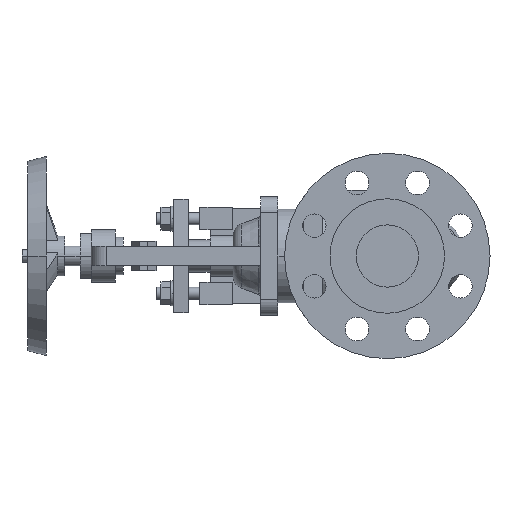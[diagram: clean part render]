
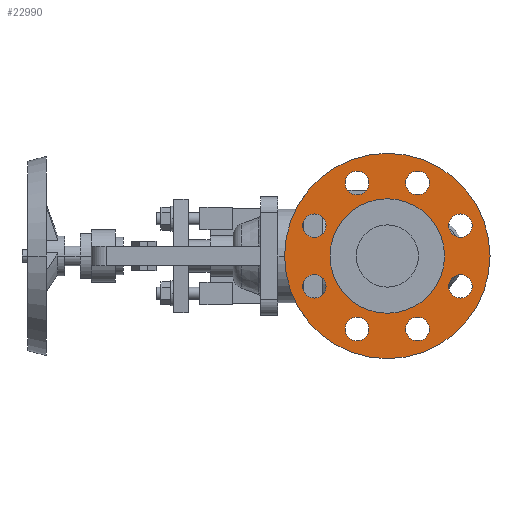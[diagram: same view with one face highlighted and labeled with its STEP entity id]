
A CAD part, left-side view. The second image highlights one B-rep face of the part: STEP entity #22990.
In plain terms, the highlighted planar face has unit normal (-1, 0, 0).
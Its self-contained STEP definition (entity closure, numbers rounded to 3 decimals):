
#4610=CARTESIAN_POINT('',(1.6,0.,-82.5));
#4620=VERTEX_POINT('',#4610);
#4650=CARTESIAN_POINT('',(1.6,0.,0.));
#4660=DIRECTION('',(1.,0.,0.));
#4670=DIRECTION('',(0.,0.,-1.));
#4680=AXIS2_PLACEMENT_3D('',#4650,#4660,#4670);
#4690=CIRCLE('',#4680,82.5);
#4700=CARTESIAN_POINT('',(1.6,0.,82.5));
#4710=VERTEX_POINT('',#4700);
#4720=EDGE_CURVE('',#4710,#4620,#4690,.T.);
#5100=CARTESIAN_POINT('',(1.6,24.3,
-49.166));
#5110=VERTEX_POINT('',#5100);
#5140=CARTESIAN_POINT('',(1.6,24.3,
-58.666));
#5150=DIRECTION('',(-1.,0.,0.));
#5160=DIRECTION('',(0.,0.,-1.));
#5170=AXIS2_PLACEMENT_3D('',#5140,#5150,#5160);
#5180=CIRCLE('',#5170,9.5);
#5190=CARTESIAN_POINT('',(1.6,24.3,
-68.166));
#5200=VERTEX_POINT('',#5190);
#5210=EDGE_CURVE('',#5200,#5110,#5180,.T.);
#5590=CARTESIAN_POINT('',(1.6,-24.3,
-49.166));
#5600=VERTEX_POINT('',#5590);
#5760=CARTESIAN_POINT('',(1.6,-24.3,
-68.166));
#5770=VERTEX_POINT('',#5760);
#5800=CARTESIAN_POINT('',(1.6,-24.3,
-58.666));
#5810=DIRECTION('',(-1.,0.,0.));
#5820=DIRECTION('',(0.,0.,-1.));
#5830=AXIS2_PLACEMENT_3D('',#5800,#5810,#5820);
#5840=CIRCLE('',#5830,9.5);
#5850=EDGE_CURVE('',#5600,#5770,#5840,.T.);
#6080=CARTESIAN_POINT('',(1.6,58.666,
-14.8));
#6090=VERTEX_POINT('',#6080);
#6250=CARTESIAN_POINT('',(1.6,58.666,
-33.8));
#6260=VERTEX_POINT('',#6250);
#6290=CARTESIAN_POINT('',(1.6,58.666,
-24.3));
#6300=DIRECTION('',(-1.,0.,0.));
#6310=DIRECTION('',(0.,0.,-1.));
#6320=AXIS2_PLACEMENT_3D('',#6290,#6300,#6310);
#6330=CIRCLE('',#6320,9.5);
#6340=EDGE_CURVE('',#6090,#6260,#6330,.T.);
#6570=CARTESIAN_POINT('',(1.6,-58.666,
-33.8));
#6580=VERTEX_POINT('',#6570);
#6610=CARTESIAN_POINT('',(1.6,-58.666,
-24.3));
#6620=DIRECTION('',(-1.,0.,0.));
#6630=DIRECTION('',(0.,0.,-1.));
#6640=AXIS2_PLACEMENT_3D('',#6610,#6620,#6630);
#6650=CIRCLE('',#6640,9.5);
#6660=CARTESIAN_POINT('',(1.6,-58.666,
-14.8));
#6670=VERTEX_POINT('',#6660);
#6680=EDGE_CURVE('',#6670,#6580,#6650,.T.);
#7060=CARTESIAN_POINT('',(1.6,58.666,
14.8));
#7070=VERTEX_POINT('',#7060);
#7100=CARTESIAN_POINT('',(1.6,58.666,
24.3));
#7110=DIRECTION('',(-1.,0.,0.));
#7120=DIRECTION('',(0.,0.,-1.));
#7130=AXIS2_PLACEMENT_3D('',#7100,#7110,#7120);
#7140=CIRCLE('',#7130,9.5);
#7150=CARTESIAN_POINT('',(1.6,58.666,
33.8));
#7160=VERTEX_POINT('',#7150);
#7170=EDGE_CURVE('',#7160,#7070,#7140,.T.);
#7550=CARTESIAN_POINT('',(1.6,-58.666,
33.8));
#7560=VERTEX_POINT('',#7550);
#7590=CARTESIAN_POINT('',(1.6,-58.666,
24.3));
#7600=DIRECTION('',(-1.,0.,0.));
#7610=DIRECTION('',(0.,0.,-1.));
#7620=AXIS2_PLACEMENT_3D('',#7590,#7600,#7610);
#7630=CIRCLE('',#7620,9.5);
#7640=CARTESIAN_POINT('',(1.6,-58.666,
14.8));
#7650=VERTEX_POINT('',#7640);
#7660=EDGE_CURVE('',#7650,#7560,#7630,.T.);
#8040=CARTESIAN_POINT('',(1.6,-24.3,
68.166));
#8050=VERTEX_POINT('',#8040);
#8210=CARTESIAN_POINT('',(1.6,-24.3,
49.166));
#8220=VERTEX_POINT('',#8210);
#8250=CARTESIAN_POINT('',(1.6,-24.3,
58.666));
#8260=DIRECTION('',(-1.,0.,0.));
#8270=DIRECTION('',(0.,0.,-1.));
#8280=AXIS2_PLACEMENT_3D('',#8250,#8260,#8270);
#8290=CIRCLE('',#8280,9.5);
#8300=EDGE_CURVE('',#8050,#8220,#8290,.T.);
#8530=CARTESIAN_POINT('',(1.6,24.3,
68.166));
#8540=VERTEX_POINT('',#8530);
#8700=CARTESIAN_POINT('',(1.6,24.3,
49.166));
#8710=VERTEX_POINT('',#8700);
#8740=CARTESIAN_POINT('',(1.6,24.3,
58.666));
#8750=DIRECTION('',(-1.,0.,0.));
#8760=DIRECTION('',(0.,0.,-1.));
#8770=AXIS2_PLACEMENT_3D('',#8740,#8750,#8760);
#8780=CIRCLE('',#8770,9.5);
#8790=EDGE_CURVE('',#8540,#8710,#8780,.T.);
#9020=CARTESIAN_POINT('',(1.6,46.,0.));
#9030=VERTEX_POINT('',#9020);
#9060=CARTESIAN_POINT('',(1.6,0.,0.));
#9070=DIRECTION('',(-1.,0.,0.));
#9080=DIRECTION('',(0.,1.,0.));
#9090=AXIS2_PLACEMENT_3D('',#9060,#9070,#9080);
#9100=CIRCLE('',#9090,46.);
#9110=CARTESIAN_POINT('',(1.6,-46.,0.));
#9120=VERTEX_POINT('',#9110);
#9130=EDGE_CURVE('',#9120,#9030,#9100,.T.);
#22440=CARTESIAN_POINT('',(1.6,64.25,0.)
);
#22450=DIRECTION('',(1.,0.,0.));
#22460=DIRECTION('',(0.,-1.,0.));
#22470=AXIS2_PLACEMENT_3D('',#22440,#22450,#22460);
#22480=PLANE('',#22470);
#22490=EDGE_CURVE('',#9030,#9120,#9100,.T.);
#22500=ORIENTED_EDGE('',*,*,#22490,.F.);
#22510=ORIENTED_EDGE('',*,*,#9130,.F.);
#22520=EDGE_LOOP('',(#22510,#22500));
#22530=FACE_BOUND('',#22520,.T.);
#22540=EDGE_CURVE('',#4620,#4710,#4690,.T.);
#22550=ORIENTED_EDGE('',*,*,#22540,.F.);
#22560=ORIENTED_EDGE('',*,*,#4720,.F.);
#22570=EDGE_LOOP('',(#22560,#22550));
#22580=FACE_OUTER_BOUND('',#22570,.T.);
#22590=EDGE_CURVE('',#5110,#5200,#5180,.T.);
#22600=ORIENTED_EDGE('',*,*,#22590,.F.);
#22610=ORIENTED_EDGE('',*,*,#5210,.F.);
#22620=EDGE_LOOP('',(#22610,#22600));
#22630=FACE_BOUND('',#22620,.T.);
#22640=EDGE_CURVE('',#5770,#5600,#5840,.T.);
#22650=ORIENTED_EDGE('',*,*,#22640,.F.);
#22660=ORIENTED_EDGE('',*,*,#5850,.F.);
#22670=EDGE_LOOP('',(#22660,#22650));
#22680=FACE_BOUND('',#22670,.T.);
#22690=EDGE_CURVE('',#6260,#6090,#6330,.T.);
#22700=ORIENTED_EDGE('',*,*,#22690,.F.);
#22710=ORIENTED_EDGE('',*,*,#6340,.F.);
#22720=EDGE_LOOP('',(#22710,#22700));
#22730=FACE_BOUND('',#22720,.T.);
#22740=EDGE_CURVE('',#6580,#6670,#6650,.T.);
#22750=ORIENTED_EDGE('',*,*,#22740,.F.);
#22760=ORIENTED_EDGE('',*,*,#6680,.F.);
#22770=EDGE_LOOP('',(#22760,#22750));
#22780=FACE_BOUND('',#22770,.T.);
#22790=ORIENTED_EDGE('',*,*,#7170,.F.);
#22800=EDGE_CURVE('',#7070,#7160,#7140,.T.);
#22810=ORIENTED_EDGE('',*,*,#22800,.F.);
#22820=EDGE_LOOP('',(#22810,#22790));
#22830=FACE_BOUND('',#22820,.T.);
#22840=ORIENTED_EDGE('',*,*,#7660,.F.);
#22850=EDGE_CURVE('',#7560,#7650,#7630,.T.);
#22860=ORIENTED_EDGE('',*,*,#22850,.F.);
#22870=EDGE_LOOP('',(#22860,#22840));
#22880=FACE_BOUND('',#22870,.T.);
#22890=EDGE_CURVE('',#8220,#8050,#8290,.T.);
#22900=ORIENTED_EDGE('',*,*,#22890,.F.);
#22910=ORIENTED_EDGE('',*,*,#8300,.F.);
#22920=EDGE_LOOP('',(#22910,#22900));
#22930=FACE_BOUND('',#22920,.T.);
#22940=EDGE_CURVE('',#8710,#8540,#8780,.T.);
#22950=ORIENTED_EDGE('',*,*,#22940,.F.);
#22960=ORIENTED_EDGE('',*,*,#8790,.F.);
#22970=EDGE_LOOP('',(#22960,#22950));
#22980=FACE_BOUND('',#22970,.T.);
#22990=ADVANCED_FACE('',(#22530,#22580,#22630,#22680,#22730,#22780,
#22830,#22880,#22930,#22980),#22480,.F.);
